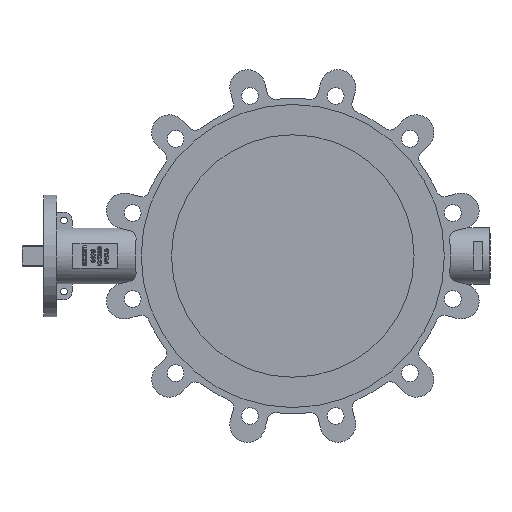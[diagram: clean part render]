
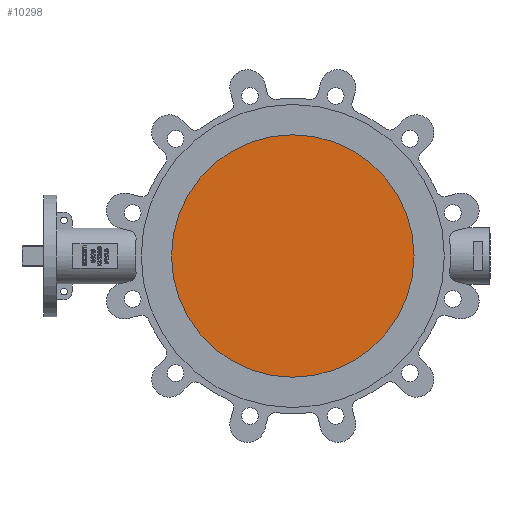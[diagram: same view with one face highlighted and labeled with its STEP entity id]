
A CAD part, left-side view. The second image highlights one B-rep face of the part: STEP entity #10298.
In plain terms, the highlighted planar face has unit normal (-1, 0, 0).
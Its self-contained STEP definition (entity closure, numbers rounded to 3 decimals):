
#495=PLANE('',#10924);
#1312=FACE_OUTER_BOUND('',#1902,.T.);
#1902=EDGE_LOOP('',(#8944));
#3879=CIRCLE('',#10923,150.);
#4809=VERTEX_POINT('',#18397);
#6204=EDGE_CURVE('',#4809,#4809,#3879,.T.);
#8944=ORIENTED_EDGE('',*,*,#6204,.F.);
#10298=ADVANCED_FACE('',(#1312),#495,.F.);
#10923=AXIS2_PLACEMENT_3D('',#18399,#12929,#12930);
#10924=AXIS2_PLACEMENT_3D('',#18400,#12931,#12932);
#12929=DIRECTION('center_axis',(1.,0.,0.));
#12930=DIRECTION('ref_axis',(0.,0.,-1.));
#12931=DIRECTION('center_axis',(1.,0.,0.));
#12932=DIRECTION('ref_axis',(0.,0.,-1.));
#18397=CARTESIAN_POINT('',(-65.191,-20.343,150.));
#18399=CARTESIAN_POINT('Origin',(-65.191,-20.343,0.));
#18400=CARTESIAN_POINT('Origin',(-65.191,-20.343,0.));
